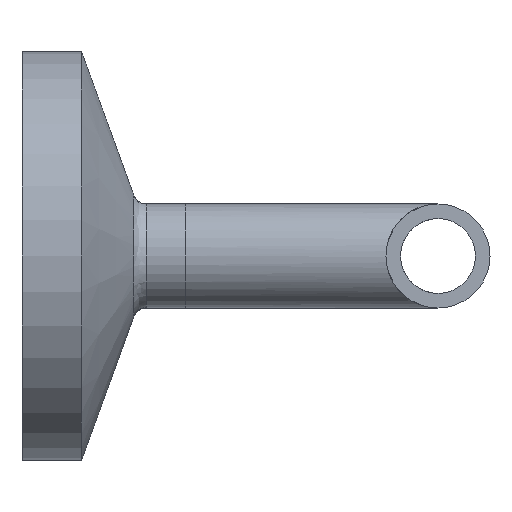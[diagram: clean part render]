
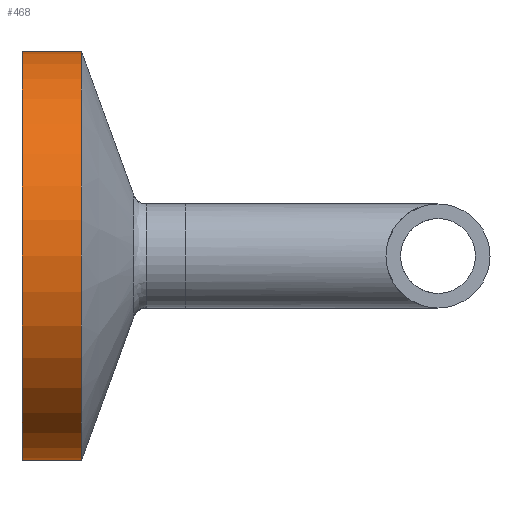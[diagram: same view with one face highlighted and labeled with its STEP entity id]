
A CAD part, left-side view. The second image highlights one B-rep face of the part: STEP entity #468.
In plain terms, the highlighted cylindrical face has radius 12.497 mm (diameter 24.994 mm), a partial arc.
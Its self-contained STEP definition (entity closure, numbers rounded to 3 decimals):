
#40 = CIRCLE ( 'NONE', #188, 12.497 ) ;
#49 = DIRECTION ( 'NONE',  ( 0., -1., 0. ) ) ;
#100 = EDGE_CURVE ( 'NONE', #245, #318, #874, .T. ) ;
#102 = DIRECTION ( 'NONE',  ( 0., 1., 0. ) ) ;
#106 = DIRECTION ( 'NONE',  ( 0., 0., 1. ) ) ;
#130 = CARTESIAN_POINT ( 'NONE',  ( 0., 35.165, -12.497 ) ) ;
#138 = CARTESIAN_POINT ( 'NONE',  ( 0., 35.165, 0. ) ) ;
#188 = AXIS2_PLACEMENT_3D ( 'NONE', #1048, #49, #1029 ) ;
#245 = VERTEX_POINT ( 'NONE', #1026 ) ;
#318 = VERTEX_POINT ( 'NONE', #737 ) ;
#351 = CARTESIAN_POINT ( 'NONE',  ( 0., 25.4, -12.497 ) ) ;
#369 = DIRECTION ( 'NONE',  ( 0., 1., 0. ) ) ;
#391 = EDGE_CURVE ( 'NONE', #318, #408, #570, .T. ) ;
#408 = VERTEX_POINT ( 'NONE', #351 ) ;
#446 = CARTESIAN_POINT ( 'NONE',  ( 0., 21.768, 0. ) ) ;
#448 = DIRECTION ( 'NONE',  ( 0., -1., 0. ) ) ;
#468 = ADVANCED_FACE ( 'NONE', ( #643 ), #503, .T. ) ;
#503 = CYLINDRICAL_SURFACE ( 'NONE', #1035, 12.497 ) ;
#556 = VECTOR ( 'NONE', #369, 1000. ) ;
#570 = LINE ( 'NONE', #130, #556 ) ;
#571 = EDGE_CURVE ( 'NONE', #894, #408, #40, .T. ) ;
#643 = FACE_OUTER_BOUND ( 'NONE', #799, .T. ) ;
#658 = ORIENTED_EDGE ( 'NONE', *, *, #1025, .T. ) ;
#660 = ORIENTED_EDGE ( 'NONE', *, *, #100, .F. ) ;
#665 = CARTESIAN_POINT ( 'NONE',  ( 0., 25.4, 12.497 ) ) ;
#675 = ORIENTED_EDGE ( 'NONE', *, *, #391, .F. ) ;
#693 = ORIENTED_EDGE ( 'NONE', *, *, #571, .T. ) ;
#737 = CARTESIAN_POINT ( 'NONE',  ( 0., 21.768, -12.497 ) ) ;
#745 = LINE ( 'NONE', #1061, #786 ) ;
#786 = VECTOR ( 'NONE', #1050, 1000. ) ;
#799 = EDGE_LOOP ( 'NONE', ( #675, #660, #658, #693 ) ) ;
#842 = DIRECTION ( 'NONE',  ( 0., 0., 1. ) ) ;
#873 = AXIS2_PLACEMENT_3D ( 'NONE', #446, #448, #842 ) ;
#874 = CIRCLE ( 'NONE', #873, 12.497 ) ;
#894 = VERTEX_POINT ( 'NONE', #665 ) ;
#1025 = EDGE_CURVE ( 'NONE', #245, #894, #745, .T. ) ;
#1026 = CARTESIAN_POINT ( 'NONE',  ( 0., 21.768, 12.497 ) ) ;
#1029 = DIRECTION ( 'NONE',  ( 0., 0., 1. ) ) ;
#1035 = AXIS2_PLACEMENT_3D ( 'NONE', #138, #102, #106 ) ;
#1048 = CARTESIAN_POINT ( 'NONE',  ( 0., 25.4, 0. ) ) ;
#1050 = DIRECTION ( 'NONE',  ( 0., 1., 0. ) ) ;
#1061 = CARTESIAN_POINT ( 'NONE',  ( 0., 35.165, 12.497 ) ) ;
